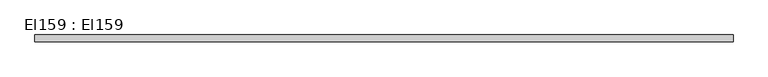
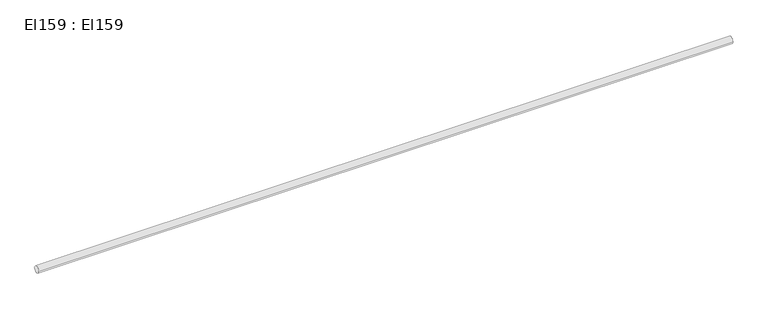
"""IFC4 building model written with IfcOpenShell, lengths in millimetres: cable carrier segment geometry, El159 : El159."""

from ifc_helpers import new_model, si_unit, point, frame, frame_2d, origin, place, context, project, spatial, circle_curve, trimmed, segment, composite_curve, outline, extrude, source, transform, mapped, element, save


def el159_el159_88f49895(model_context):
    return source(origin(), model_context, "Body", "SweptSolid", [
        extrude(outline(composite_curve([segment(trimmed(circle_curve(frame_2d((10097.1, 2950.0)), 9.5), [point((10087.6, 2950.0))], [point((10106.6, 2950.0))], False, "CARTESIAN"), True, "CONTINUOUS"), segment(trimmed(circle_curve(frame_2d((10097.1, 2950.0)), 9.5), [point((10106.6, 2950.0))], [point((10087.6, 2950.0))], False, "CARTESIAN"), True, "CONTINUOUS")], self_intersect=False)), frame((13998.3, 0.0, 0.0), z_axis=(1.0, 0.0, 0.0), x_axis=(0.0, 1.0, 0.0)), (0.0, 0.0, 1.0), 1895.0),
    ])


if __name__ == "__main__":
    model = new_model("IFC4")
    model_context = context("Model", 3, world=origin())
    ifc_project = project(units=[si_unit("LENGTHUNIT", "METRE", prefix="MILLI")], contexts=[model_context])
    site = spatial("IfcSite", under=ifc_project)
    building = spatial("IfcBuilding", under=site)
    placement = place(None, origin())
    el159_el159_shape = el159_el159_88f49895(model_context)
    element("IfcCableCarrierSegment", 1, ObjectType="El159 : El159", at=placement, inside=building, context=model_context, shape_type="MappedRepresentation", body=[
        mapped(el159_el159_shape, transform((0.0, 0.0, 0.0), x_axis=(1.0, 0.0, 0.0), y_axis=(0.0, 1.0, 0.0), z_axis=(0.0, 0.0, 1.0))),
    ])
    save(model, "model.ifc")
